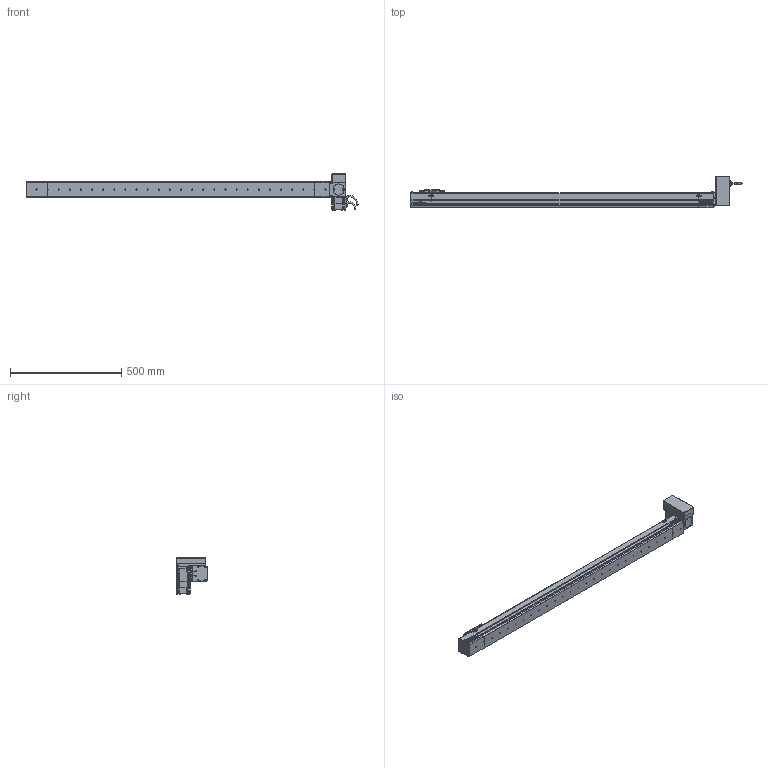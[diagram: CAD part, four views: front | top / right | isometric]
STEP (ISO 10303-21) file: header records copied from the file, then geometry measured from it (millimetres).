
FILE_DESCRIPTION (( 'STEP AP214' ), '1' );
FILE_NAME ('S07 CBN LT S1200.STEP', '2010-06-29T10:22:34', ( 'Conseil Régional Haute-Normandie' ), ( 'Conseil Régional Haute-Normandie' ), 'SwSTEP 2.0', 'SolidWorks 2010', '' );
FILE_SCHEMA (( 'AUTOMOTIVE_DESIGN' ));
Length unit declared in the file: millimetre
Products named in the file (31): S07 CBN LT S1200; vis M5 L8_Default; support chariot_Default; chariot_Default; Chariot S07_Default; vis M5 L15_Default; plaque de serrage Tail_Default; Plaque de bout Tail_Default; Couvercle Tail_Default; Corp LT_Default; Plaque de bout LT_Default; Head LT_Default; Rondelle de Serrage LT_Default; Cache Support Moteur LT_Default; Couvercle LT_Default; P1_Default; 60BLDC90A-640_Default; Support Moteur LT_Default; plaque de serrage LT_Default; P4_Default; P3 90A_Default; P2 90A_Default; Conecteur2 60BLDC_Default; Conecteur 60BLDC_Default; Axe 60BLDC_Default; Corp S07 S1200_Default; VisM3_Default; Corp Tail_Default; Tail S07 Tail_Default; Couvercle S07 S1200_Default
Assembly tree (71 placements, depth 4):
  S07 CBN LT S1200
    Tail S07 Tail_Default
      vis M5 L15_Default  x6
      Corp Tail_Default
      plaque de serrage Tail_Default
      Couvercle Tail_Default
      Plaque de bout Tail_Default
    Corp S07 S1200_Default
      Couvercle S07 S1200_Default
      Corp S07 S1200_Default
    Head LT_Default
      vis M5 L15_Default  x16
      Couvercle LT_Default
      plaque de serrage LT_Default
      60BLDC90A-640_Default
        Conecteur2 60BLDC_Default
        VisM3_Default  x12
        Conecteur 60BLDC_Default
        P3 90A_Default
        Axe 60BLDC_Default
        P1_Default
        P2 90A_Default
        P4_Default
      Cache Support Moteur LT_Default
      Plaque de bout LT_Default
      Rondelle de Serrage LT_Default  x3
      Corp LT_Default
      Support Moteur LT_Default
    Chariot S07_Default
      vis M5 L8_Default  x8
      chariot_Default
      support chariot_Default
Bounding box: 1493.2 x 141 x 162 mm (x, y, z)
Volume: 7041894.8 mm3; surface area: 845720.6 mm2
Topology: 108 solids, 108 shells, 3922 faces, 9650 edges, 6212 vertices
Faces by surface type: plane 2260, bspline 756, cylinder 695, torus 112, cone 95, sphere 4
Entity records: 154153 total; most frequent: CARTESIAN_POINT 79721, ORIENTED_EDGE 14820, DIRECTION 11123, EDGE_CURVE 7410, VERTEX_POINT 4897, VECTOR 4793, LINE 4793, EDGE_LOOP 3189
